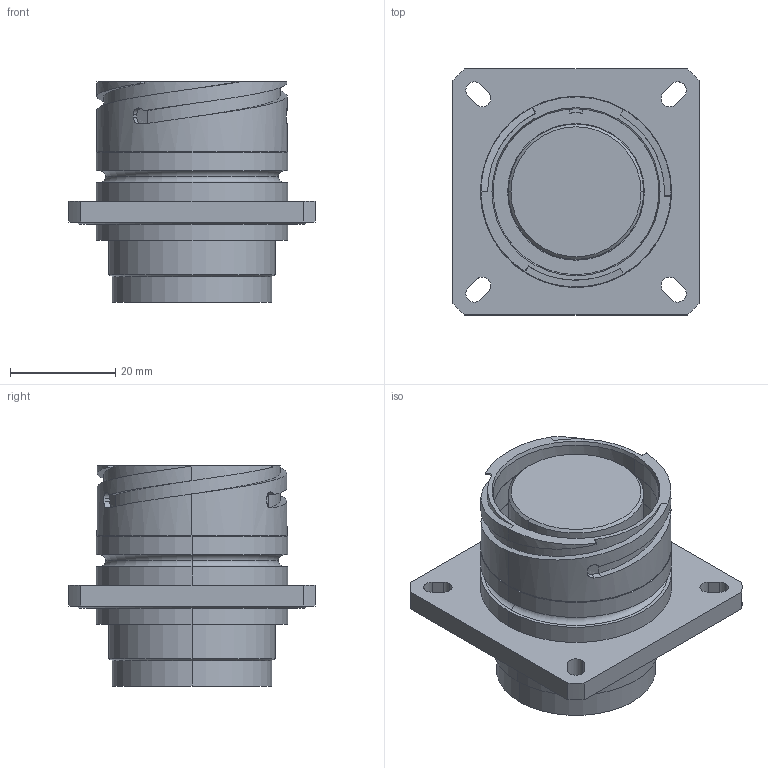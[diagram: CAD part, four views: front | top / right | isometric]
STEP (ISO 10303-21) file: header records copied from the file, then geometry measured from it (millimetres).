
FILE_DESCRIPTION (( 'STEP AP214' ), '1' );
FILE_NAME ('QLINK-RFBX-21XX-S00-RA.STEP', '2025-12-16T15:58:55', ( '' ), ( '' ), 'SwSTEP 2.0', 'SolidWorks 2024', '' );
FILE_SCHEMA (( 'AUTOMOTIVE_DESIGN' ));
Length unit declared in the file: millimetre
Products named in the file (1): QLINK-RFBX-21XX-S00-RA
Bounding box: 46.86 x 46.86 x 41.91 mm (x, y, z)
Volume: 36203.5 mm3; surface area: 14614.4 mm2
Topology: 2 solids, 2 shells, 144 faces, 348 edges, 219 vertices
Faces by surface type: cylinder 62, plane 42, torus 18, bspline 12, cone 10
Entity records: 5900 total; most frequent: CARTESIAN_POINT 2507, DIRECTION 723, ORIENTED_EDGE 696, EDGE_CURVE 348, AXIS2_PLACEMENT_3D 295, VERTEX_POINT 219, EDGE_LOOP 165, CIRCLE 162
